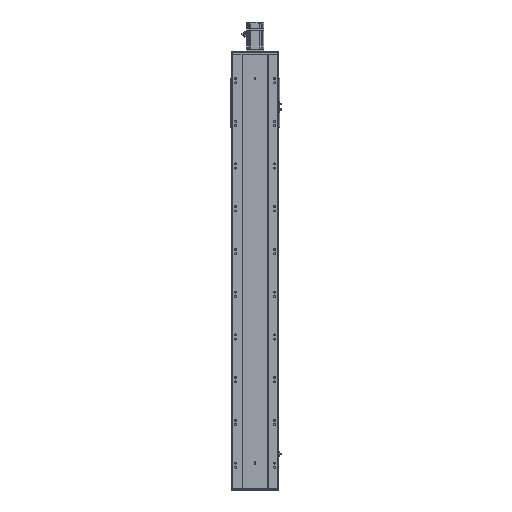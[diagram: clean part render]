
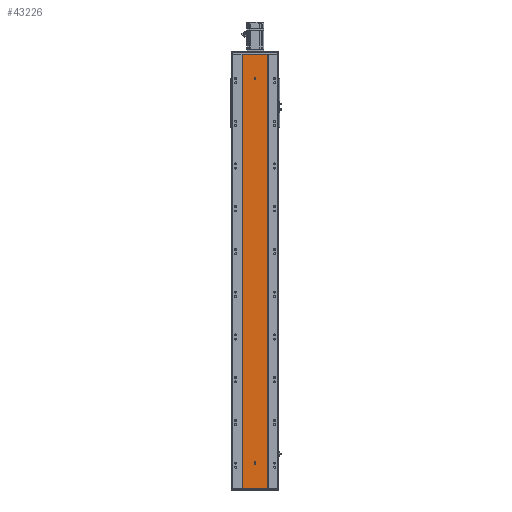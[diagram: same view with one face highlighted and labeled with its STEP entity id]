
A CAD part, front view. The second image highlights one B-rep face of the part: STEP entity #43226.
In plain terms, the highlighted planar face has unit normal (0, -1, 0).
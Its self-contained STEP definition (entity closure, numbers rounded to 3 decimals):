
#164 = VECTOR ( 'NONE', #45168, 1000. ) ;
#1062 = DIRECTION ( 'NONE',  ( 0., -1., 0. ) ) ;
#1201 = LINE ( 'NONE', #29925, #62992 ) ;
#1360 = PLANE ( 'NONE',  #66501 ) ;
#1827 = ORIENTED_EDGE ( 'NONE', *, *, #36972, .F. ) ;
#2832 = CARTESIAN_POINT ( 'NONE',  ( -4., 0., 119.5 ) ) ;
#3520 = ORIENTED_EDGE ( 'NONE', *, *, #13268, .F. ) ;
#4611 = ORIENTED_EDGE ( 'NONE', *, *, #52796, .F. ) ;
#4830 = LINE ( 'NONE', #70271, #164 ) ;
#5000 = CARTESIAN_POINT ( 'NONE',  ( 0., 0., 119.5 ) ) ;
#6951 = AXIS2_PLACEMENT_3D ( 'NONE', #5000, #47121, #41365 ) ;
#7545 = ORIENTED_EDGE ( 'NONE', *, *, #64187, .F. ) ;
#7974 = EDGE_CURVE ( 'NONE', #61525, #77544, #60340, .T. ) ;
#8730 = ORIENTED_EDGE ( 'NONE', *, *, #16337, .F. ) ;
#11027 = EDGE_CURVE ( 'NONE', #43896, #61989, #51530, .T. ) ;
#11472 = CARTESIAN_POINT ( 'NONE',  ( -60., 0., 2032. ) ) ;
#13268 = EDGE_CURVE ( 'NONE', #53439, #61525, #37189, .T. ) ;
#13996 = CARTESIAN_POINT ( 'NONE',  ( 0., 0., 1922. ) ) ;
#14310 = CARTESIAN_POINT ( 'NONE',  ( -60., 0., 0. ) ) ;
#14422 = CARTESIAN_POINT ( 'NONE',  ( 0., 0., 112.5 ) ) ;
#16337 = EDGE_CURVE ( 'NONE', #60700, #61989, #39229, .T. ) ;
#19060 = VERTEX_POINT ( 'NONE', #26040 ) ;
#19700 = EDGE_LOOP ( 'NONE', ( #7545, #1827 ) ) ;
#21800 = AXIS2_PLACEMENT_3D ( 'NONE', #35833, #54114, #36875 ) ;
#23176 = EDGE_CURVE ( 'NONE', #53312, #43896, #48514, .T. ) ;
#23211 = CARTESIAN_POINT ( 'NONE',  ( 0., 0., 1918. ) ) ;
#24404 = CIRCLE ( 'NONE', #49830, 4. ) ;
#24944 = DIRECTION ( 'NONE',  ( 0., 0., 1. ) ) ;
#25037 = EDGE_LOOP ( 'NONE', ( #37879, #8730, #46543, #45257 ) ) ;
#25133 = CARTESIAN_POINT ( 'NONE',  ( 0., 0., 116.5 ) ) ;
#25268 = VECTOR ( 'NONE', #56451, 1000. ) ;
#25848 = CIRCLE ( 'NONE', #21800, 4. ) ;
#26040 = CARTESIAN_POINT ( 'NONE',  ( 0., 0., 1914. ) ) ;
#27079 = DIRECTION ( 'NONE',  ( 0., -1., 0. ) ) ;
#27438 = AXIS2_PLACEMENT_3D ( 'NONE', #32561, #27079, #38590 ) ;
#28880 = EDGE_CURVE ( 'NONE', #66775, #48851, #25848, .T. ) ;
#29220 = DIRECTION ( 'NONE',  ( 0., -1., 0. ) ) ;
#29925 = CARTESIAN_POINT ( 'NONE',  ( 4., 0., 116.5 ) ) ;
#30166 = DIRECTION ( 'NONE',  ( 0., 1., 0. ) ) ;
#31967 = EDGE_CURVE ( 'NONE', #53312, #60700, #4830, .T. ) ;
#32561 = CARTESIAN_POINT ( 'NONE',  ( 0., 0., 1918. ) ) ;
#33983 = ORIENTED_EDGE ( 'NONE', *, *, #51857, .F. ) ;
#35461 = FACE_BOUND ( 'NONE', #70898, .T. ) ;
#35833 = CARTESIAN_POINT ( 'NONE',  ( 0., 0., 116.5 ) ) ;
#36790 = AXIS2_PLACEMENT_3D ( 'NONE', #23211, #29220, #52232 ) ;
#36875 = DIRECTION ( 'NONE',  ( 0., 0., -1. ) ) ;
#36972 = EDGE_CURVE ( 'NONE', #52495, #19060, #41907, .T. ) ;
#37189 = CIRCLE ( 'NONE', #6951, 4. ) ;
#37391 = CARTESIAN_POINT ( 'NONE',  ( 4., 0., 119.5 ) ) ;
#37879 = ORIENTED_EDGE ( 'NONE', *, *, #11027, .T. ) ;
#38590 = DIRECTION ( 'NONE',  ( 0., 0., -1. ) ) ;
#39229 = LINE ( 'NONE', #46510, #42936 ) ;
#41365 = DIRECTION ( 'NONE',  ( 0., 0., -1. ) ) ;
#41907 = CIRCLE ( 'NONE', #36790, 4. ) ;
#42004 = VECTOR ( 'NONE', #42477, 1000. ) ;
#42396 = ORIENTED_EDGE ( 'NONE', *, *, #7974, .F. ) ;
#42477 = DIRECTION ( 'NONE',  ( 0., 0., -1. ) ) ;
#42936 = VECTOR ( 'NONE', #70067, 1000. ) ;
#43226 = ADVANCED_FACE ( 'NONE', ( #57016, #35461, #73869 ), #1360, .F. ) ;
#43896 = VERTEX_POINT ( 'NONE', #14310 ) ;
#44868 = CARTESIAN_POINT ( 'NONE',  ( -4., 0., 116.5 ) ) ;
#45168 = DIRECTION ( 'NONE',  ( 1., 0., 0. ) ) ;
#45257 = ORIENTED_EDGE ( 'NONE', *, *, #23176, .T. ) ;
#46510 = CARTESIAN_POINT ( 'NONE',  ( 60., 0., 2032. ) ) ;
#46543 = ORIENTED_EDGE ( 'NONE', *, *, #31967, .F. ) ;
#47121 = DIRECTION ( 'NONE',  ( 0., -1., 0. ) ) ;
#48184 = DIRECTION ( 'NONE',  ( 0., 0., 1. ) ) ;
#48514 = LINE ( 'NONE', #61268, #42004 ) ;
#48851 = VERTEX_POINT ( 'NONE', #55543 ) ;
#49830 = AXIS2_PLACEMENT_3D ( 'NONE', #25133, #1062, #73026 ) ;
#51530 = LINE ( 'NONE', #62204, #25268 ) ;
#51857 = EDGE_CURVE ( 'NONE', #77544, #66775, #24404, .T. ) ;
#52232 = DIRECTION ( 'NONE',  ( 0., 0., -1. ) ) ;
#52495 = VERTEX_POINT ( 'NONE', #13996 ) ;
#52796 = EDGE_CURVE ( 'NONE', #48851, #53439, #1201, .T. ) ;
#53312 = VERTEX_POINT ( 'NONE', #11472 ) ;
#53439 = VERTEX_POINT ( 'NONE', #37391 ) ;
#54114 = DIRECTION ( 'NONE',  ( 0., -1., 0. ) ) ;
#54311 = ORIENTED_EDGE ( 'NONE', *, *, #28880, .F. ) ;
#55104 = DIRECTION ( 'NONE',  ( 0., 0., -1. ) ) ;
#55543 = CARTESIAN_POINT ( 'NONE',  ( 4., 0., 116.5 ) ) ;
#56451 = DIRECTION ( 'NONE',  ( 1., 0., 0. ) ) ;
#57016 = FACE_BOUND ( 'NONE', #19700, .T. ) ;
#58919 = CIRCLE ( 'NONE', #27438, 4. ) ;
#60340 = LINE ( 'NONE', #61371, #74451 ) ;
#60700 = VERTEX_POINT ( 'NONE', #73106 ) ;
#60733 = CARTESIAN_POINT ( 'NONE',  ( -60., 0., 2032. ) ) ;
#61268 = CARTESIAN_POINT ( 'NONE',  ( -60., 0., 2032. ) ) ;
#61371 = CARTESIAN_POINT ( 'NONE',  ( -4., 0., 116.5 ) ) ;
#61525 = VERTEX_POINT ( 'NONE', #2832 ) ;
#61989 = VERTEX_POINT ( 'NONE', #62917 ) ;
#62204 = CARTESIAN_POINT ( 'NONE',  ( -60., 0., 0. ) ) ;
#62917 = CARTESIAN_POINT ( 'NONE',  ( 60., 0., 0. ) ) ;
#62992 = VECTOR ( 'NONE', #24944, 1000. ) ;
#64187 = EDGE_CURVE ( 'NONE', #19060, #52495, #58919, .T. ) ;
#66501 = AXIS2_PLACEMENT_3D ( 'NONE', #60733, #30166, #48184 ) ;
#66775 = VERTEX_POINT ( 'NONE', #14422 ) ;
#70067 = DIRECTION ( 'NONE',  ( 0., 0., -1. ) ) ;
#70271 = CARTESIAN_POINT ( 'NONE',  ( -60., 0., 2032. ) ) ;
#70898 = EDGE_LOOP ( 'NONE', ( #4611, #54311, #33983, #42396, #3520 ) ) ;
#73026 = DIRECTION ( 'NONE',  ( 0., 0., -1. ) ) ;
#73106 = CARTESIAN_POINT ( 'NONE',  ( 60., 0., 2032. ) ) ;
#73869 = FACE_OUTER_BOUND ( 'NONE', #25037, .T. ) ;
#74451 = VECTOR ( 'NONE', #55104, 1000. ) ;
#77544 = VERTEX_POINT ( 'NONE', #44868 ) ;
